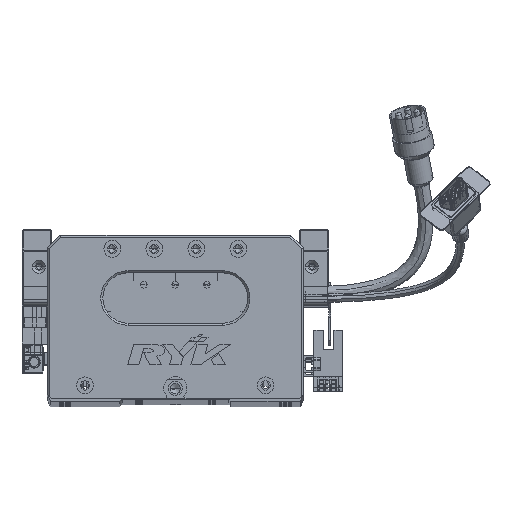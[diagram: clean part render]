
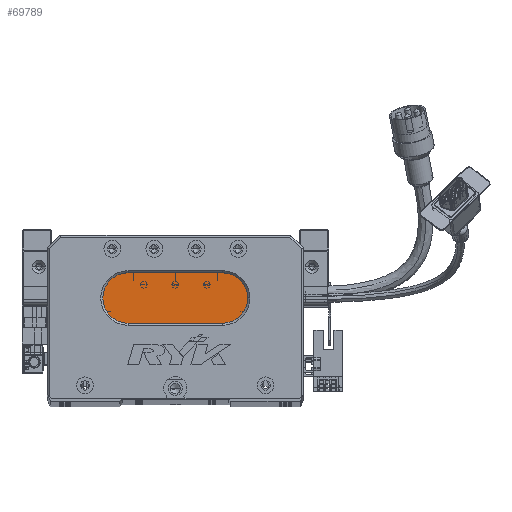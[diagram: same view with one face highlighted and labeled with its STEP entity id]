
A CAD part, top view. The second image highlights one B-rep face of the part: STEP entity #69789.
In plain terms, the highlighted planar face has unit normal (0, 0, 1) as drawn and (0, 0, -1) by its records, which use the part's own axes.
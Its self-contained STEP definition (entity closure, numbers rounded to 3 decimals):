
#767 = ORIENTED_EDGE ( 'NONE', *, *, #24674, .T. ) ;
#2664 = VERTEX_POINT ( 'NONE', #53923 ) ;
#7093 = VECTOR ( 'NONE', #70278, 1000. ) ;
#11591 = AXIS2_PLACEMENT_3D ( 'NONE', #80171, #36195, #20264 ) ;
#14147 = DIRECTION ( 'NONE',  ( 1., 0., 0. ) ) ;
#17907 = ORIENTED_EDGE ( 'NONE', *, *, #57649, .T. ) ;
#17936 = DIRECTION ( 'NONE',  ( 0., 0., -1. ) ) ;
#17940 = EDGE_CURVE ( 'NONE', #66902, #26369, #91462, .T. ) ;
#19700 = AXIS2_PLACEMENT_3D ( 'NONE', #33168, #86424, #94697 ) ;
#20264 = DIRECTION ( 'NONE',  ( -1., 0., 0. ) ) ;
#24674 = EDGE_CURVE ( 'NONE', #85208, #38489, #65391, .T. ) ;
#25577 = CARTESIAN_POINT ( 'NONE',  ( 83.5, 48., 13. ) ) ;
#26369 = VERTEX_POINT ( 'NONE', #57138 ) ;
#27506 = ORIENTED_EDGE ( 'NONE', *, *, #46584, .T. ) ;
#29232 = CARTESIAN_POINT ( 'NONE',  ( 38.5, 48., 13. ) ) ;
#30017 = AXIS2_PLACEMENT_3D ( 'NONE', #29232, #82491, #59530 ) ;
#31090 = EDGE_LOOP ( 'NONE', ( #76900, #767, #17907, #75758, #27506 ) ) ;
#33168 = CARTESIAN_POINT ( 'NONE',  ( 83.5, 48., 13. ) ) ;
#34072 = LINE ( 'NONE', #98284, #93671 ) ;
#36195 = DIRECTION ( 'NONE',  ( 0., 0., -1. ) ) ;
#36760 = CARTESIAN_POINT ( 'NONE',  ( 38.5, 36., 13. ) ) ;
#38489 = VERTEX_POINT ( 'NONE', #36760 ) ;
#40214 = DIRECTION ( 'NONE',  ( -1., 0., 0. ) ) ;
#40919 = EDGE_CURVE ( 'NONE', #2664, #85208, #46085, .T. ) ;
#41141 = PLANE ( 'NONE',  #19700 ) ;
#46085 = CIRCLE ( 'NONE', #79175, 12. ) ;
#46584 = EDGE_CURVE ( 'NONE', #26369, #2664, #34072, .T. ) ;
#51992 = CIRCLE ( 'NONE', #30017, 12. ) ;
#53923 = CARTESIAN_POINT ( 'NONE',  ( 83.5, 60., 13. ) ) ;
#57138 = CARTESIAN_POINT ( 'NONE',  ( 38.5, 60., 13. ) ) ;
#57478 = CARTESIAN_POINT ( 'NONE',  ( 26.5, 48., 13. ) ) ;
#57649 = EDGE_CURVE ( 'NONE', #38489, #66902, #51992, .T. ) ;
#59530 = DIRECTION ( 'NONE',  ( -1., 0., 0. ) ) ;
#59822 = CARTESIAN_POINT ( 'NONE',  ( 83.5, 36., 13. ) ) ;
#65391 = LINE ( 'NONE', #92889, #7093 ) ;
#66902 = VERTEX_POINT ( 'NONE', #57478 ) ;
#68357 = FACE_OUTER_BOUND ( 'NONE', #31090, .T. ) ;
#69789 = ADVANCED_FACE ( 'NONE', ( #68357 ), #41141, .T. ) ;
#70278 = DIRECTION ( 'NONE',  ( -1., 0., 0. ) ) ;
#75758 = ORIENTED_EDGE ( 'NONE', *, *, #17940, .T. ) ;
#76900 = ORIENTED_EDGE ( 'NONE', *, *, #40919, .T. ) ;
#79175 = AXIS2_PLACEMENT_3D ( 'NONE', #25577, #17936, #40214 ) ;
#80171 = CARTESIAN_POINT ( 'NONE',  ( 38.5, 48., 13. ) ) ;
#82491 = DIRECTION ( 'NONE',  ( 0., 0., -1. ) ) ;
#85208 = VERTEX_POINT ( 'NONE', #59822 ) ;
#86424 = DIRECTION ( 'NONE',  ( 0., 0., -1. ) ) ;
#91462 = CIRCLE ( 'NONE', #11591, 12. ) ;
#92889 = CARTESIAN_POINT ( 'NONE',  ( 83.5, 36., 13. ) ) ;
#93671 = VECTOR ( 'NONE', #14147, 1000. ) ;
#94697 = DIRECTION ( 'NONE',  ( -1., 0., 0. ) ) ;
#98284 = CARTESIAN_POINT ( 'NONE',  ( 83.5, 60., 13. ) ) ;
